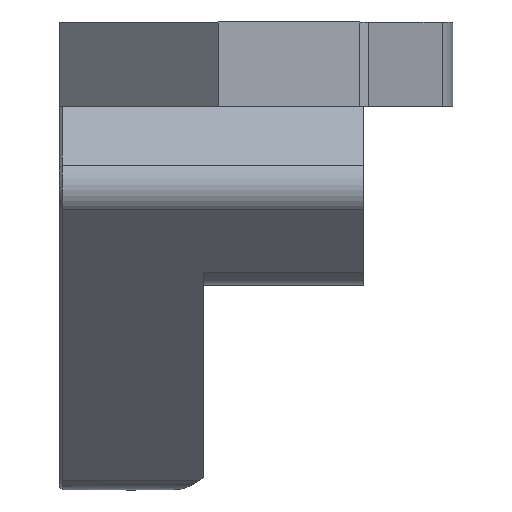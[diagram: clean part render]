
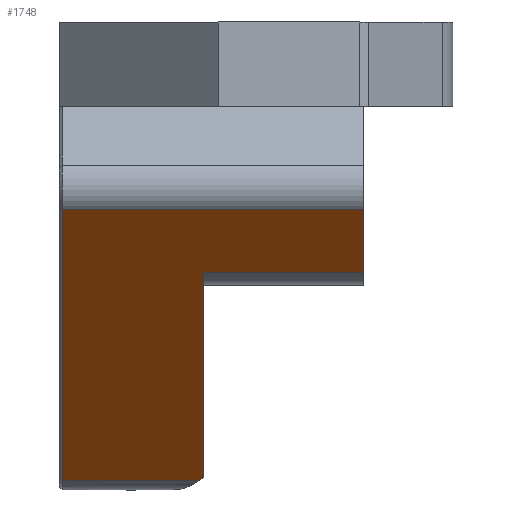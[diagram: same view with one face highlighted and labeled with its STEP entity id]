
A CAD part, left-side view. The second image highlights one B-rep face of the part: STEP entity #1748.
In plain terms, the highlighted planar face has unit normal (-0.707, 0, -0.707).
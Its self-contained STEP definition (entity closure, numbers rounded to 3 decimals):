
#23=ELLIPSE('',#1818,16.546,11.7);
#155=PLANE('',#1861);
#240=LINE('',#3933,#378);
#271=LINE('',#4068,#409);
#277=LINE('',#4082,#415);
#278=LINE('',#4085,#416);
#279=LINE('',#4087,#417);
#280=LINE('',#4088,#418);
#378=VECTOR('',#2063,10.);
#409=VECTOR('',#2160,10.);
#415=VECTOR('',#2176,10.);
#416=VECTOR('',#2181,10.);
#417=VECTOR('',#2182,10.);
#418=VECTOR('',#2183,10.);
#502=FACE_OUTER_BOUND('',#613,.T.);
#613=EDGE_LOOP('',(#1500,#1501,#1502,#1503,#1504,#1505,#1506));
#833=VERTEX_POINT('',#3908);
#834=VERTEX_POINT('',#3910);
#839=VERTEX_POINT('',#3932);
#861=VERTEX_POINT('',#4063);
#862=VERTEX_POINT('',#4067);
#865=VERTEX_POINT('',#4081);
#866=VERTEX_POINT('',#4086);
#1037=EDGE_CURVE('',#834,#833,#23,.T.);
#1043=EDGE_CURVE('',#833,#839,#240,.T.);
#1087=EDGE_CURVE('',#861,#862,#271,.T.);
#1094=EDGE_CURVE('',#862,#865,#277,.T.);
#1096=EDGE_CURVE('',#834,#861,#278,.T.);
#1097=EDGE_CURVE('',#866,#839,#279,.T.);
#1098=EDGE_CURVE('',#865,#866,#280,.T.);
#1500=ORIENTED_EDGE('',*,*,#1087,.F.);
#1501=ORIENTED_EDGE('',*,*,#1096,.F.);
#1502=ORIENTED_EDGE('',*,*,#1037,.T.);
#1503=ORIENTED_EDGE('',*,*,#1043,.T.);
#1504=ORIENTED_EDGE('',*,*,#1097,.F.);
#1505=ORIENTED_EDGE('',*,*,#1098,.F.);
#1506=ORIENTED_EDGE('',*,*,#1094,.F.);
#1748=ADVANCED_FACE('',(#502),#155,.T.);
#1818=AXIS2_PLACEMENT_3D('',#3911,#2054,#2055);
#1861=AXIS2_PLACEMENT_3D('',#4084,#2179,#2180);
#2054=DIRECTION('center_axis',(0.707,0.,0.707));
#2055=DIRECTION('ref_axis',(0.707,0.,-0.707));
#2063=DIRECTION('',(-0.707,0.,0.707));
#2160=DIRECTION('',(-0.707,0.,0.707));
#2176=DIRECTION('',(0.,-1.,0.));
#2179=DIRECTION('center_axis',(-0.707,0.,
-0.707));
#2180=DIRECTION('ref_axis',(0.707,0.,-0.707));
#2181=DIRECTION('',(0.,1.,0.));
#2182=DIRECTION('',(0.,1.,0.));
#2183=DIRECTION('',(0.707,0.,-0.707));
#3908=CARTESIAN_POINT('',(22.698,42.458,-1.687));
#3910=CARTESIAN_POINT('',(22.898,42.745,-1.887));
#3911=CARTESIAN_POINT('Origin',(32.397,35.913,-11.385));
#3932=CARTESIAN_POINT('',(8.775,42.458,12.237));
#3933=CARTESIAN_POINT('',(6.651,42.458,14.36));
#4063=CARTESIAN_POINT('',(22.898,52.008,-1.887));
#4067=CARTESIAN_POINT('',(4.55,52.008,16.462));
#4068=CARTESIAN_POINT('',(10.867,52.008,10.145));
#4081=CARTESIAN_POINT('',(4.55,31.62,16.462));
#4082=CARTESIAN_POINT('',(4.55,40.858,16.462));
#4084=CARTESIAN_POINT('Origin',(4.55,51.908,16.462));
#4085=CARTESIAN_POINT('',(22.898,50.261,-1.887));
#4086=CARTESIAN_POINT('',(8.775,31.62,12.237));
#4087=CARTESIAN_POINT('',(8.775,46.636,12.237));
#4088=CARTESIAN_POINT('',(10.867,31.62,10.145));
